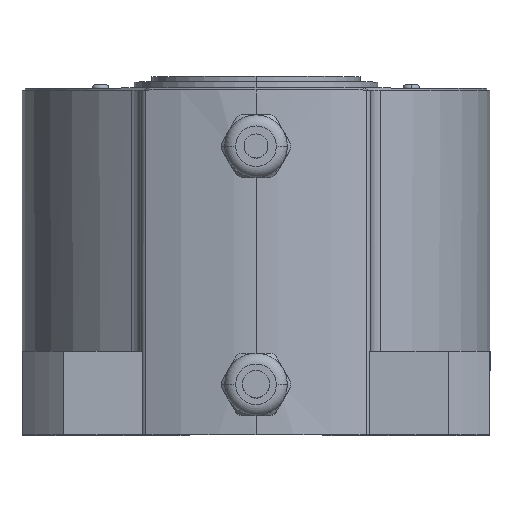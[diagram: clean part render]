
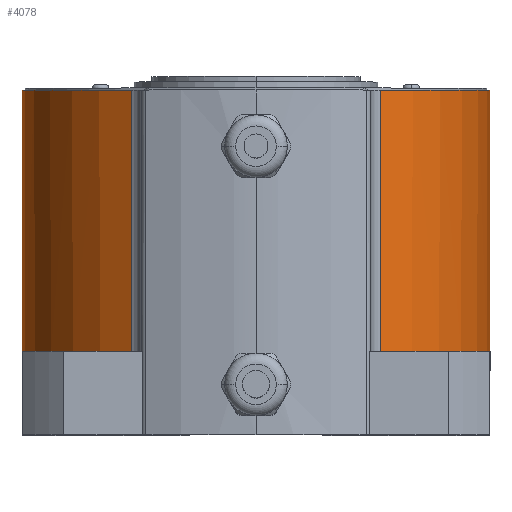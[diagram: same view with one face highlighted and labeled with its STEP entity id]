
A CAD part, top view. The second image highlights one B-rep face of the part: STEP entity #4078.
In plain terms, the highlighted cylindrical face has radius 56 mm (diameter 112 mm), a partial arc.
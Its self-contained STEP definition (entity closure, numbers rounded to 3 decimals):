
#141 = VERTEX_POINT ( 'NONE', #21140 ) ;
#972 = AXIS2_PLACEMENT_3D ( 'NONE', #18442, #2865, #11221 ) ;
#1829 = ORIENTED_EDGE ( 'NONE', *, *, #7153, .F. ) ;
#2505 = CIRCLE ( 'NONE', #15297, 56. ) ;
#2582 = CYLINDRICAL_SURFACE ( 'NONE', #10818, 56. ) ;
#2807 = CARTESIAN_POINT ( 'NONE',  ( 56., -62.5, 0. ) ) ;
#2865 = DIRECTION ( 'NONE',  ( 0., 1., 0. ) ) ;
#4078 = ADVANCED_FACE ( 'NONE', ( #14476 ), #2582, .T. ) ;
#4252 = CIRCLE ( 'NONE', #972, 56. ) ;
#4255 = EDGE_CURVE ( 'NONE', #9341, #8751, #22173, .T. ) ;
#4528 = DIRECTION ( 'NONE',  ( 0., 0., 1. ) ) ;
#4581 = DIRECTION ( 'NONE',  ( 0., 0., 1. ) ) ;
#4841 = DIRECTION ( 'NONE',  ( 0., 1., 0. ) ) ;
#5333 = AXIS2_PLACEMENT_3D ( 'NONE', #6238, #20225, #4528 ) ;
#5498 = EDGE_CURVE ( 'NONE', #17121, #9341, #8613, .T. ) ;
#6238 = CARTESIAN_POINT ( 'NONE',  ( 0., -62.5, 0. ) ) ;
#6284 = EDGE_CURVE ( 'NONE', #17600, #17121, #4252, .T. ) ;
#6345 = CARTESIAN_POINT ( 'NONE',  ( 29.836, -62.5, 47.39 ) ) ;
#6393 = ORIENTED_EDGE ( 'NONE', *, *, #6284, .T. ) ;
#6905 = CARTESIAN_POINT ( 'NONE',  ( 29.836, -62.5, 47.39 ) ) ;
#6989 = LINE ( 'NONE', #17521, #8814 ) ;
#7153 = EDGE_CURVE ( 'NONE', #11386, #141, #2505, .T. ) ;
#7241 = EDGE_CURVE ( 'NONE', #11386, #17600, #22038, .T. ) ;
#7287 = ORIENTED_EDGE ( 'NONE', *, *, #4255, .T. ) ;
#7839 = DIRECTION ( 'NONE',  ( 0., 0., 1. ) ) ;
#8613 = CIRCLE ( 'NONE', #14104, 56. ) ;
#8751 = VERTEX_POINT ( 'NONE', #17115 ) ;
#8814 = VECTOR ( 'NONE', #12564, 1000. ) ;
#9330 = CARTESIAN_POINT ( 'NONE',  ( 0., -62.5, -56. ) ) ;
#9341 = VERTEX_POINT ( 'NONE', #9330 ) ;
#9785 = ORIENTED_EDGE ( 'NONE', *, *, #7241, .T. ) ;
#10285 = AXIS2_PLACEMENT_3D ( 'NONE', #11548, #11775, #4581 ) ;
#10761 = EDGE_CURVE ( 'NONE', #8751, #21941, #19434, .T. ) ;
#10818 = AXIS2_PLACEMENT_3D ( 'NONE', #16320, #12757, #7839 ) ;
#11221 = DIRECTION ( 'NONE',  ( 0., 0., 1. ) ) ;
#11386 = VERTEX_POINT ( 'NONE', #20721 ) ;
#11475 = DIRECTION ( 'NONE',  ( 0., 0., 1. ) ) ;
#11548 = CARTESIAN_POINT ( 'NONE',  ( 0., -62.5, 0. ) ) ;
#11642 = DIRECTION ( 'NONE',  ( 0., 1., 0. ) ) ;
#11775 = DIRECTION ( 'NONE',  ( 0., 1., 0. ) ) ;
#12564 = DIRECTION ( 'NONE',  ( 0., 1., 0. ) ) ;
#12757 = DIRECTION ( 'NONE',  ( 0., 1., 0. ) ) ;
#13047 = CARTESIAN_POINT ( 'NONE',  ( -29.836, -62.5, 47.39 ) ) ;
#13128 = DIRECTION ( 'NONE',  ( 0., 0., 1. ) ) ;
#13253 = ORIENTED_EDGE ( 'NONE', *, *, #5498, .T. ) ;
#13305 = DIRECTION ( 'NONE',  ( 0., -1., 0. ) ) ;
#13594 = CARTESIAN_POINT ( 'NONE',  ( 0., -62.5, 0. ) ) ;
#13847 = VECTOR ( 'NONE', #13305, 1000. ) ;
#14104 = AXIS2_PLACEMENT_3D ( 'NONE', #13594, #11642, #13128 ) ;
#14476 = FACE_OUTER_BOUND ( 'NONE', #21966, .T. ) ;
#15297 = AXIS2_PLACEMENT_3D ( 'NONE', #20546, #4841, #11475 ) ;
#15687 = ORIENTED_EDGE ( 'NONE', *, *, #10761, .T. ) ;
#16320 = CARTESIAN_POINT ( 'NONE',  ( 0., -62.5, 0. ) ) ;
#17115 = CARTESIAN_POINT ( 'NONE',  ( -56., -62.5, 0. ) ) ;
#17121 = VERTEX_POINT ( 'NONE', #2807 ) ;
#17521 = CARTESIAN_POINT ( 'NONE',  ( -29.836, -62.5, 47.39 ) ) ;
#17600 = VERTEX_POINT ( 'NONE', #6905 ) ;
#18442 = CARTESIAN_POINT ( 'NONE',  ( 0., -62.5, 0. ) ) ;
#19056 = EDGE_CURVE ( 'NONE', #21941, #141, #6989, .T. ) ;
#19434 = CIRCLE ( 'NONE', #10285, 56. ) ;
#20225 = DIRECTION ( 'NONE',  ( 0., 1., 0. ) ) ;
#20546 = CARTESIAN_POINT ( 'NONE',  ( 0., 0., 0. ) ) ;
#20721 = CARTESIAN_POINT ( 'NONE',  ( 29.836, 0., 47.39 ) ) ;
#21140 = CARTESIAN_POINT ( 'NONE',  ( -29.836, 0., 47.39 ) ) ;
#21941 = VERTEX_POINT ( 'NONE', #13047 ) ;
#21966 = EDGE_LOOP ( 'NONE', ( #1829, #9785, #6393, #13253, #7287, #15687, #22517 ) ) ;
#22038 = LINE ( 'NONE', #6345, #13847 ) ;
#22173 = CIRCLE ( 'NONE', #5333, 56. ) ;
#22517 = ORIENTED_EDGE ( 'NONE', *, *, #19056, .T. ) ;
